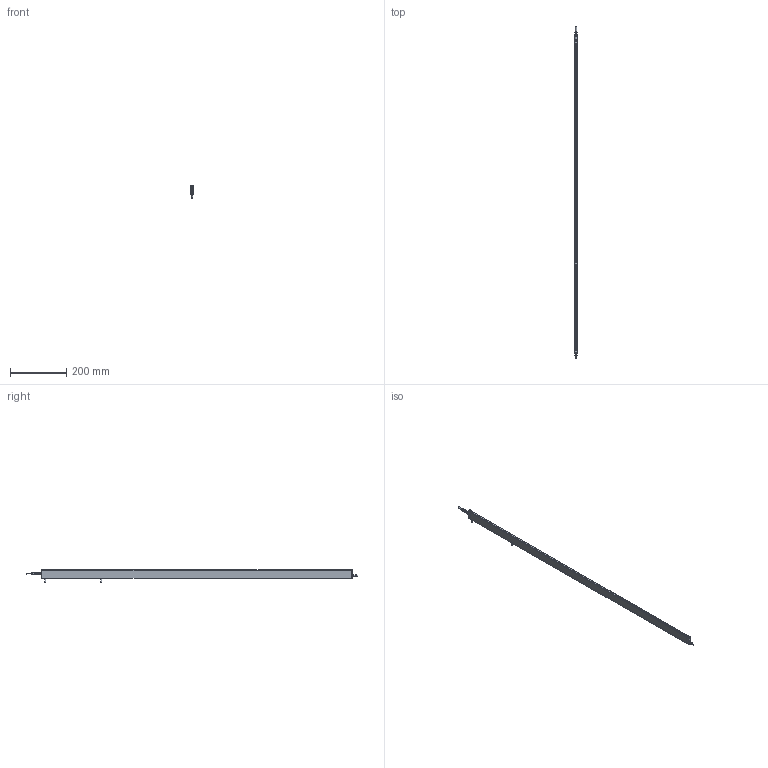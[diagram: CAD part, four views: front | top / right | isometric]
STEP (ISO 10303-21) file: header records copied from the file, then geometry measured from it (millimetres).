
FILE_DESCRIPTION (( 'STEP AP214' ), '1' );
FILE_NAME ('ILG-B-K2-1110mm.STEP', '2017-07-10T12:57:01', ( '' ), ( '' ), 'SwSTEP 2.0', 'SolidWorks 2016', '' );
FILE_SCHEMA (( 'AUTOMOTIVE_DESIGN' ));
Length unit declared in the file: millimetre
Products named in the file (1): ILG-B-K2-1110mm
Bounding box: 9 x 1183.5 x 46.21 mm (x, y, z)
Surface area: 187396.2 mm2 (no closed solid volume)
Topology: 0 solids, 15 shells, 702 faces, 1822 edges, 1157 vertices
Faces by surface type: cylinder 287, plane 266, cone 99, bspline 32, torus 18
Entity records: 31388 total; most frequent: CARTESIAN_POINT 6631, ORIENTED_EDGE 3597, DIRECTION 3488, EDGE_CURVE 1806, AXIS2_PLACEMENT_3D 1342, VERTEX_POINT 1157, LINE 804, VECTOR 804
